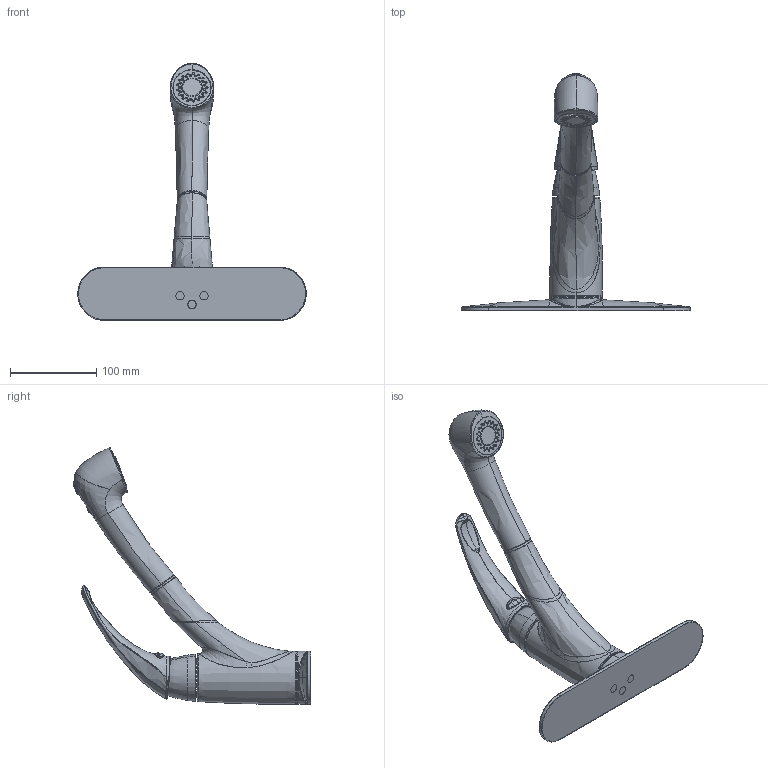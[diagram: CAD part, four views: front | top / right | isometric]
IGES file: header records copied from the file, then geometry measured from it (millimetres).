
Start section:  PTC IGES file: sku_7560.igs
Global section: file name: sku_7560.igs; native system: Pro/ENGINEER by Parametric Technology Corporation; preprocessor: 2006460; author: 9dutterb; organization: Unknown; date: 20071219.151353; units: inch
Bounding box: 264.21 x 274.66 x 297.35 mm (x, y, z)
Surface area: 136356.2 mm2 (no closed solid volume)
Topology: 0 solids, 0 shells, 541 faces, 2445 edges, 2409 vertices
Faces by surface type: bspline 314, revolution 223, extrusion 4
